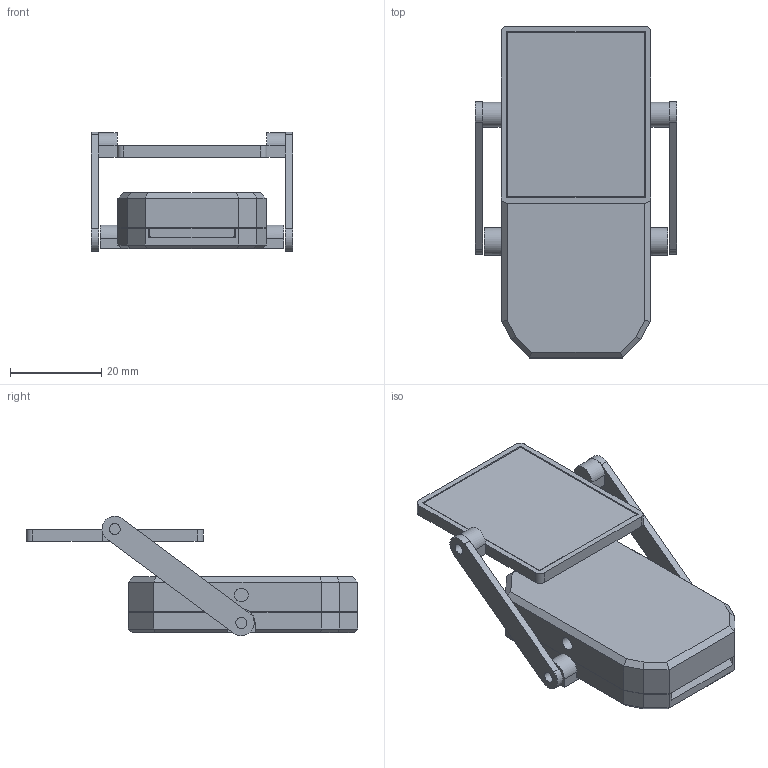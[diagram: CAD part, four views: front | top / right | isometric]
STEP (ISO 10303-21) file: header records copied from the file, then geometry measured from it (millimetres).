
FILE_DESCRIPTION(('Open CASCADE Model'),'2;1');
FILE_NAME('Open CASCADE Shape Model','2026-10-30T16:43:30',('Author'),( 'Open CASCADE'),'Open CASCADE STEP processor 8.0','Open CASCADE 8.0' ,'Unknown');
FILE_SCHEMA(('AP242_MANAGED_MODEL_BASED_3D_ENGINEERING_MIM_LF {1 0 10303 442 1 1 4 }' ));
Length unit declared in the file: millimetre
Products named in the file (6): MSV4 Minimum Profile Arm Base; MSV4 Minimum Profile Arm Lid; MSV4 Solar Arm Left; MSV4 Solar Arm Right; MSV4 36 x 30 Solar Panel Frame; 36 x 30 mm Solar Panel Reference - Do Not Print
Bounding box: 44 x 72.6 x 26.09 mm (x, y, z)
Volume: 10902.2 mm3; surface area: 16459.3 mm2
Topology: 6 solids, 6 shells, 186 faces, 461 edges, 298 vertices
Faces by surface type: plane 143, cylinder 39, extrusion 4
Full cylindrical faces by diameter (mm): 1.6 x2, 2.4 x4, 2.9 x4, 3 x1
Entity records: 12448 total; most frequent: CARTESIAN_POINT 3016, DIRECTION 1704, VECTOR 1101, LINE 1097, ORIENTED_EDGE 922, PCURVE 922, DEFINITIONAL_REPRESENTATION 922, EDGE_CURVE 461
